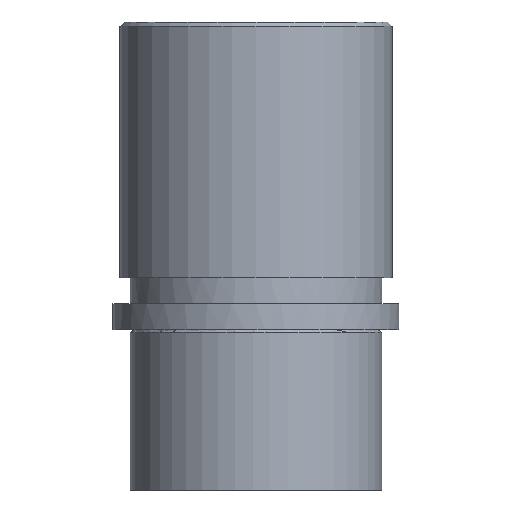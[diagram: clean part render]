
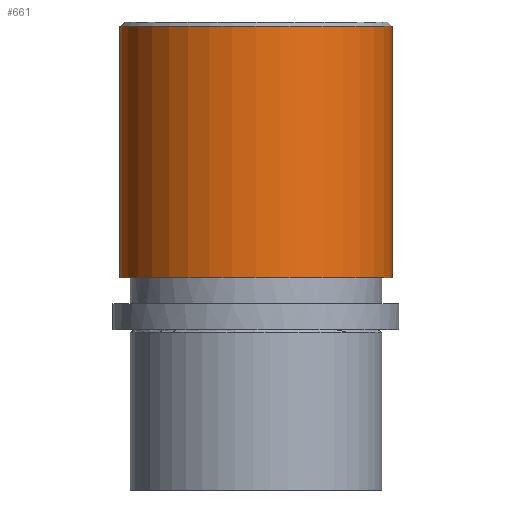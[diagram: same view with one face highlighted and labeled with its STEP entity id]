
A CAD part, front view. The second image highlights one B-rep face of the part: STEP entity #661.
In plain terms, the highlighted cylindrical face has radius 31.4 mm (diameter 62.8 mm), a partial arc.
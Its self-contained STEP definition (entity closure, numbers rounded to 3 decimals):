
#505=CARTESIAN_POINT('Vertex',(-31.4,0.,70.)) ;
#512=CARTESIAN_POINT('Vertex',(31.4,0.,70.)) ;
#532=CARTESIAN_POINT('Axis2P3D Location',(0.,0.,70.)) ;
#619=CARTESIAN_POINT('Line Origine',(-31.4,0.,71.)) ;
#623=CARTESIAN_POINT('Vertex',(-31.4,0.,12.)) ;
#626=CARTESIAN_POINT('Line Origine',(31.4,0.,71.)) ;
#630=CARTESIAN_POINT('Vertex',(31.4,0.,12.)) ;
#645=CARTESIAN_POINT('Axis2P3D Location',(0.,0.,71.)) ;
#650=CARTESIAN_POINT('Axis2P3D Location',(0.,0.,12.)) ;
#533=DIRECTION('Axis2P3D Direction',(0.,0.,-1.)) ;
#620=DIRECTION('Vector Direction',(0.,0.,-1.)) ;
#627=DIRECTION('Vector Direction',(0.,0.,-1.)) ;
#646=DIRECTION('Axis2P3D Direction',(0.,0.,-1.)) ;
#647=DIRECTION('Axis2P3D XDirection',(1.,0.,0.)) ;
#651=DIRECTION('Axis2P3D Direction',(0.,0.,-1.)) ;
#534=AXIS2_PLACEMENT_3D('Circle Axis2P3D',#532,#533,$) ;
#648=AXIS2_PLACEMENT_3D('Cylinder Axis2P3D',#645,#646,#647) ;
#652=AXIS2_PLACEMENT_3D('Circle Axis2P3D',#650,#651,$) ;
#656=ORIENTED_EDGE('',*,*,#632,.T.) ;
#657=ORIENTED_EDGE('',*,*,#536,.F.) ;
#658=ORIENTED_EDGE('',*,*,#625,.T.) ;
#659=ORIENTED_EDGE('',*,*,#654,.T.) ;
#621=VECTOR('Line Direction',#620,1.) ;
#628=VECTOR('Line Direction',#627,1.) ;
#661=ADVANCED_FACE('733-38',(#660),#649,.T.) ;
#535=CIRCLE('generated circle',#534,31.4) ;
#653=CIRCLE('generated circle',#652,31.4) ;
#649=CYLINDRICAL_SURFACE('generated cylinder',#648,31.4) ;
#536=EDGE_CURVE('',#506,#513,#535,.F.) ;
#625=EDGE_CURVE('',#506,#624,#622,.T.) ;
#632=EDGE_CURVE('',#631,#513,#629,.F.) ;
#654=EDGE_CURVE('',#624,#631,#653,.F.) ;
#655=EDGE_LOOP('',(#656,#657,#658,#659)) ;
#660=FACE_OUTER_BOUND('',#655,.T.) ;
#622=LINE('Line',#619,#621) ;
#629=LINE('Line',#626,#628) ;
#506=VERTEX_POINT('',#505) ;
#513=VERTEX_POINT('',#512) ;
#624=VERTEX_POINT('',#623) ;
#631=VERTEX_POINT('',#630) ;
